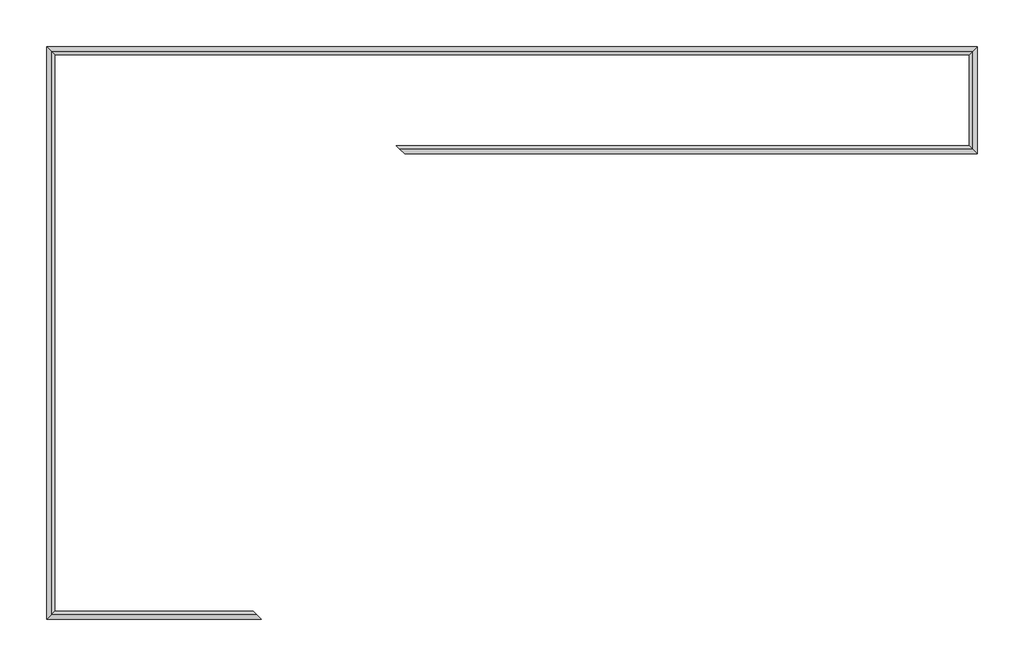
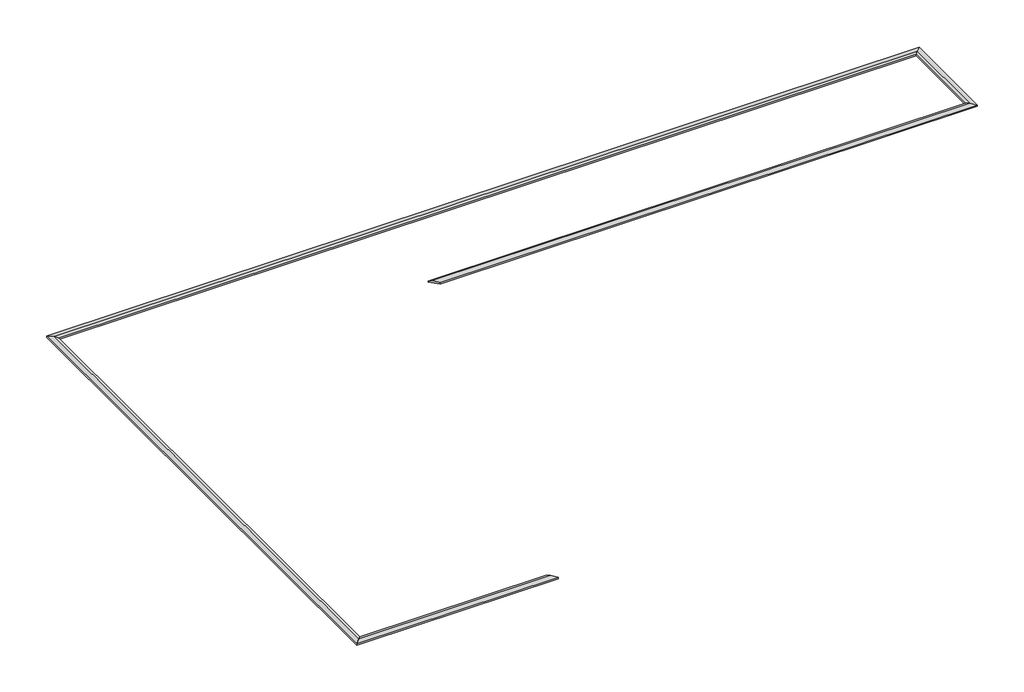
# One storey, incomplete: 5 proxies.
"""IFC4 building model written with IfcOpenShell, lengths in millimetres."""

from ifc_helpers import new_model, si_unit, origin, place, context, project, spatial, faceted_brep, element, save

model = new_model("IFC4")

# Units and contexts
model_context = context("Model", 3, world=origin())
ifc_project = project(units=[si_unit("LENGTHUNIT", "METRE", prefix="MILLI")], contexts=[model_context])

# Site, building, storey
site = spatial("IfcSite", under=ifc_project)
building = spatial("IfcBuilding", under=site)
storey = spatial("IfcBuildingStorey", under=building, Name="05 T.O. Parapet", Elevation=15240.0)

# Proxies
placement = place(None, origin())
element("IfcBuildingElementProxy", 1, Name="Wall Sweeps", at=placement, inside=storey, context=model_context, shape_type="Brep", body=[
    faceted_brep([(-19522.7273699, 9250.1746638, 15303.5), (-19522.7273699, 9250.1746638, 15240.0), (-19167.1273699, 8894.5746638, 15240.0), (-19167.1273699, 8894.5746638, 15303.5), (-19294.1273699, 9021.5746638, 15341.6), (20101.2726301, 9250.1746638, 15303.5), (19872.6726301, 9021.5746638, 15341.6), (19745.6726301, 8894.5746638, 15303.5), (19745.6726301, 8894.5746638, 15240.0), (20101.2726301, 9250.1746638, 15240.0)], [[[0, 1, 2, 3, 4]], [[5, 6, 7, 8, 9]], [[1, 0, 5, 9]], [[2, 1, 9, 8]], [[3, 2, 8, 7]], [[4, 3, 7, 6]], [[0, 4, 6, 5]]]),
])
element("IfcBuildingElementProxy", 2, Name="Wall Sweeps", at=placement, inside=storey, context=model_context, shape_type="Brep", body=[
    faceted_brep([(-19522.7273699, -15133.8253362, 15303.5), (-19522.7273699, -15133.8253362, 15240.0), (-19167.1273699, -14778.2253362, 15240.0), (-19167.1273699, -14778.2253362, 15303.5), (-19294.1273699, -14905.2253362, 15341.6), (-19522.7273699, 9250.1746638, 15303.5), (-19294.1273699, 9021.5746638, 15341.6), (-19167.1273699, 8894.5746638, 15303.5), (-19167.1273699, 8894.5746638, 15240.0), (-19522.7273699, 9250.1746638, 15240.0), (-19522.7273699, 8894.5746638, 15240.0)], [[[0, 1, 2, 3, 4]], [[5, 6, 7, 8, 9]], [[1, 0, 5, 9, 10]], [[2, 1, 10, 9, 8]], [[3, 2, 8, 7]], [[4, 3, 7, 6]], [[0, 4, 6, 5]]]),
])
element("IfcBuildingElementProxy", 3, Name="Wall Sweeps", at=placement, inside=storey, context=model_context, shape_type="Brep", body=[
    faceted_brep([(-19522.7273699, -15133.8253362, 15303.5), (-19294.1273699, -14905.2253362, 15341.6), (-19167.1273699, -14778.2253362, 15303.5), (-19167.1273699, -14778.2253362, 15240.0), (-19522.7273699, -15133.8253362, 15240.0), (-10378.7273699, -15133.8253362, 15303.5), (-10378.7273699, -15133.8253362, 15240.0), (-10734.3273699, -14778.2253362, 15240.0), (-10734.3273699, -14778.2253362, 15303.5), (-10607.3273699, -14905.2253362, 15341.6), (-19167.1273699, -15133.8253362, 15240.0)], [[[0, 1, 2, 3, 4]], [[5, 6, 7, 8, 9]], [[0, 4, 10, 6, 5]], [[4, 3, 7, 6, 10]], [[3, 2, 8, 7]], [[2, 1, 9, 8]], [[1, 0, 5, 9]]]),
])
element("IfcBuildingElementProxy", 4, Name="Wall Sweeps", at=placement, inside=storey, context=model_context, shape_type="Brep", body=[
    faceted_brep([(-4282.7273699, 4678.1746638, 15303.5), (-4511.3273699, 4906.7746638, 15341.6), (-4638.3273699, 5033.7746638, 15303.5), (-4638.3273699, 5033.7746638, 15240.0), (-4282.7273699, 4678.1746638, 15240.0), (20101.2726301, 4678.1746638, 15303.5), (20101.2726301, 4678.1746638, 15240.0), (19745.6726301, 5033.7746638, 15240.0), (19745.6726301, 5033.7746638, 15303.5), (19872.6726301, 4906.7746638, 15341.6)], [[[0, 1, 2, 3, 4]], [[5, 6, 7, 8, 9]], [[1, 0, 5, 9]], [[2, 1, 9, 8]], [[3, 2, 8, 7]], [[4, 3, 7, 6]], [[0, 4, 6, 5]]]),
])
element("IfcBuildingElementProxy", 5, Name="Wall Sweeps", at=placement, inside=storey, context=model_context, shape_type="Brep", body=[
    faceted_brep([(20101.2726301, 4678.1746638, 15303.5), (19872.6726301, 4906.7746638, 15341.6), (19745.6726301, 5033.7746638, 15303.5), (19745.6726301, 5033.7746638, 15240.0), (20101.2726301, 4678.1746638, 15240.0), (20101.2726301, 9250.1746638, 15303.5), (20101.2726301, 9250.1746638, 15240.0), (19745.6726301, 8894.5746638, 15240.0), (19745.6726301, 8894.5746638, 15303.5), (19872.6726301, 9021.5746638, 15341.6), (20101.2726301, 5033.7746638, 15240.0), (20101.2726301, 8894.5746638, 15240.0)], [[[0, 1, 2, 3, 4]], [[5, 6, 7, 8, 9]], [[0, 4, 10, 11, 6, 5]], [[4, 3, 7, 6, 11, 10]], [[3, 2, 8, 7]], [[2, 1, 9, 8]], [[1, 0, 5, 9]]]),
])

save(model, "model.ifc")
